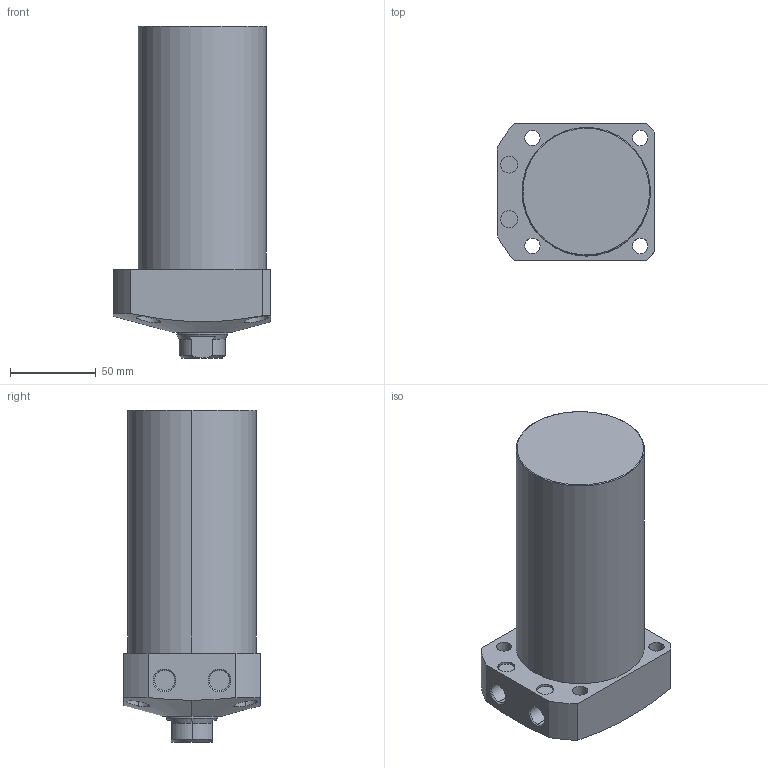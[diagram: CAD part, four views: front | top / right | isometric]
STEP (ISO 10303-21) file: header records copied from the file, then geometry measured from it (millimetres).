
FILE_DESCRIPTION (( 'STEP AP203' ), '1' );
FILE_NAME ('CLL-075CA-105.STEP', '2019-12-23T08:43:24', ( '' ), ( '' ), 'SwSTEP 2.0', 'SolidWorks 2015', '' );
FILE_SCHEMA (( 'CONFIG_CONTROL_DESIGN' ));
Length unit declared in the file: millimetre
Products named in the file (1): CLL-075CA-105
Bounding box: 92 x 80 x 194 mm (x, y, z)
Volume: 846394.7 mm3; surface area: 65792.3 mm2
Topology: 1 solids, 1 shells, 74 faces, 171 edges, 108 vertices
Faces by surface type: cylinder 35, plane 22, cone 15, torus 2
Entity records: 2610 total; most frequent: CARTESIAN_POINT 815, DIRECTION 376, ORIENTED_EDGE 338, EDGE_CURVE 169, AXIS2_PLACEMENT_3D 156, VERTEX_POINT 108, EDGE_LOOP 93, CIRCLE 81
